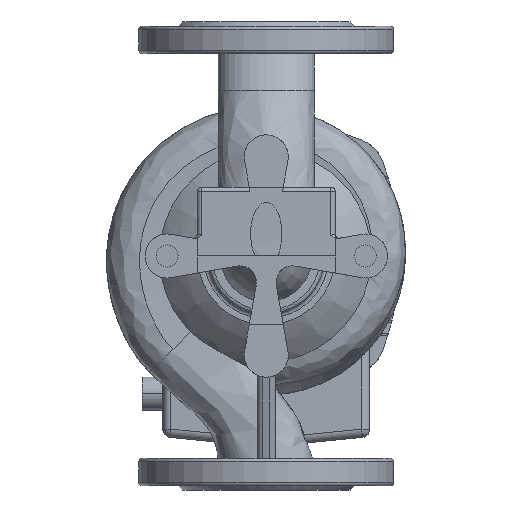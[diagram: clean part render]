
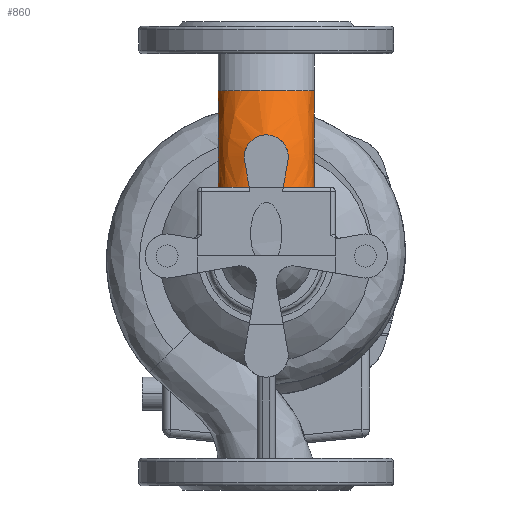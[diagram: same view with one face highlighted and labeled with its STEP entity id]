
A CAD part, front view. The second image highlights one B-rep face of the part: STEP entity #860.
In plain terms, the highlighted free-form (B-spline) face has degree [3, 3] with [7, 4] control points.
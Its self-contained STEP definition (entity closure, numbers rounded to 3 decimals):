
#149=(
BOUNDED_SURFACE()
B_SPLINE_SURFACE(3,3,((#22906,#22907,#22908,#22909),(#22910,#22911,#22912,
#22913),(#22914,#22915,#22916,#22917),(#22918,#22919,#22920,#22921),(#22922,
#22923,#22924,#22925),(#22926,#22927,#22928,#22929),(#22930,#22931,#22932,
#22933)),.UNSPECIFIED.,.T.,.F.,.F.)
B_SPLINE_SURFACE_WITH_KNOTS((1,3,3,3,1),(4,4),(-0.5,0.,0.5,1.,1.5),(0.,
1.),.UNSPECIFIED.)
GEOMETRIC_REPRESENTATION_ITEM()
RATIONAL_B_SPLINE_SURFACE(((1.,0.949,0.949,1.),
(0.333,0.316,0.316,0.333),
(0.333,0.316,0.316,0.333),
(1.,0.949,0.949,1.),(0.333,0.316,
0.316,0.333),(0.333,0.316,
0.316,0.333),(1.,0.949,0.949,
1.)))
REPRESENTATION_ITEM('')
SURFACE()
);
#180=(
BOUNDED_CURVE()
B_SPLINE_CURVE(3,(#22844,#22845,#22846,#22847),.UNSPECIFIED.,.F.,.F.)
B_SPLINE_CURVE_WITH_KNOTS((4,4),(0.,1.),.UNSPECIFIED.)
CURVE()
GEOMETRIC_REPRESENTATION_ITEM()
RATIONAL_B_SPLINE_CURVE((0.963,0.965,0.978,
1.))
REPRESENTATION_ITEM('')
);
#181=(
BOUNDED_CURVE()
B_SPLINE_CURVE(3,(#22851,#22852,#22853,#22854),.UNSPECIFIED.,.F.,.F.)
B_SPLINE_CURVE_WITH_KNOTS((4,4),(0.,1.),.UNSPECIFIED.)
CURVE()
GEOMETRIC_REPRESENTATION_ITEM()
RATIONAL_B_SPLINE_CURVE((0.963,0.965,0.978,
1.))
REPRESENTATION_ITEM('')
);
#860=ADVANCED_FACE('',(#2214),#149,.F.);
#2214=FACE_OUTER_BOUND('',#3035,.T.);
#3035=EDGE_LOOP('',(#6671,#6672,#6673,#6674,#6675,#6676,#6677,#6678,#6679,
#6680));
#4075=B_SPLINE_CURVE_WITH_KNOTS('',3,(#22858,#22859,#22860,#22861,#22862,
#22863,#22864,#22865),.UNSPECIFIED.,.F.,.F.,(4,2,2,4),(0.,0.5,0.75,1.),
 .UNSPECIFIED.);
#4076=B_SPLINE_CURVE_WITH_KNOTS('',3,(#22867,#22868,#22869,#22870),
 .UNSPECIFIED.,.F.,.F.,(4,4),(0.,1.),.UNSPECIFIED.);
#4077=B_SPLINE_CURVE_WITH_KNOTS('',3,(#22872,#22873,#22874,#22875,#22876,
#22877,#22878,#22879,#22880,#22881,#22882,#22883,#22884,#22885,#22886,#22887,
#22888,#22889),.UNSPECIFIED.,.F.,.F.,(4,2,2,2,2,2,2,2,4),(0.,0.125,0.25,
0.375,0.5,0.625,0.75,0.875,1.),.UNSPECIFIED.);
#4078=B_SPLINE_CURVE_WITH_KNOTS('',3,(#22891,#22892,#22893,#22894),
 .UNSPECIFIED.,.F.,.F.,(4,4),(0.,1.),.UNSPECIFIED.);
#4079=B_SPLINE_CURVE_WITH_KNOTS('',3,(#22896,#22897,#22898,#22899,#22900,
#22901,#22902,#22903,#22904,#22905),.UNSPECIFIED.,.F.,.F.,(4,2,2,2,4),(0.,
0.25,0.5,0.75,1.),.UNSPECIFIED.);
#6671=ORIENTED_EDGE('',*,*,#12825,.T.);
#6672=ORIENTED_EDGE('',*,*,#12826,.T.);
#6673=ORIENTED_EDGE('',*,*,#12827,.T.);
#6674=ORIENTED_EDGE('',*,*,#12828,.F.);
#6675=ORIENTED_EDGE('',*,*,#12829,.F.);
#6676=ORIENTED_EDGE('',*,*,#12830,.T.);
#6677=ORIENTED_EDGE('',*,*,#12831,.T.);
#6678=ORIENTED_EDGE('',*,*,#12832,.T.);
#6679=ORIENTED_EDGE('',*,*,#12833,.T.);
#6680=ORIENTED_EDGE('',*,*,#12834,.T.);
#11288=VERTEX_POINT('',#22842);
#11289=VERTEX_POINT('',#22843);
#11290=VERTEX_POINT('',#22848);
#11291=VERTEX_POINT('',#22850);
#11292=VERTEX_POINT('',#22855);
#11293=VERTEX_POINT('',#22857);
#11294=VERTEX_POINT('',#22866);
#11295=VERTEX_POINT('',#22871);
#11296=VERTEX_POINT('',#22890);
#11297=VERTEX_POINT('',#22895);
#12825=EDGE_CURVE('',#11288,#11289,#15056,.T.);
#12826=EDGE_CURVE('',#11289,#11290,#180,.T.);
#12827=EDGE_CURVE('',#11290,#11291,#15057,.T.);
#12828=EDGE_CURVE('',#11292,#11291,#181,.T.);
#12829=EDGE_CURVE('',#11293,#11292,#15058,.T.);
#12830=EDGE_CURVE('',#11293,#11294,#4075,.T.);
#12831=EDGE_CURVE('',#11294,#11295,#4076,.T.);
#12832=EDGE_CURVE('',#11295,#11296,#4077,.T.);
#12833=EDGE_CURVE('',#11296,#11297,#4078,.T.);
#12834=EDGE_CURVE('',#11297,#11288,#4079,.T.);
#15056=CIRCLE('',#15984,147.267);
#15057=CIRCLE('',#15985,35.);
#15058=CIRCLE('',#15986,147.267);
#15984=AXIS2_PLACEMENT_3D('',#22841,#17912,#17913);
#15985=AXIS2_PLACEMENT_3D('',#22849,#17914,#17915);
#15986=AXIS2_PLACEMENT_3D('',#22856,#17916,#17917);
#17912=DIRECTION('',(-1.,0.,0.));
#17913=DIRECTION('',(0.,0.,1.));
#17914=DIRECTION('',(0.,0.,-1.));
#17915=DIRECTION('',(-1.,0.,0.));
#17916=DIRECTION('',(-1.,0.,0.));
#17917=DIRECTION('',(0.,0.,1.));
#22841=CARTESIAN_POINT('',(43.921,15.948,19.151));
#22842=CARTESIAN_POINT('',(43.921,-127.341,53.151));
#22843=CARTESIAN_POINT('',(43.921,-117.164,82.151));
#22844=CARTESIAN_POINT('',(43.921,-117.164,82.151));
#22845=CARTESIAN_POINT('',(43.921,-109.871,97.559));
#22846=CARTESIAN_POINT('',(43.921,-100.086,111.385));
#22847=CARTESIAN_POINT('',(43.921,-88.186,123.285));
#22848=CARTESIAN_POINT('',(43.921,-88.186,123.285));
#22849=CARTESIAN_POINT('',(8.921,-88.186,123.285));
#22850=CARTESIAN_POINT('',(-26.079,-88.186,123.285));
#22851=CARTESIAN_POINT('',(-26.079,-117.164,82.151));
#22852=CARTESIAN_POINT('',(-26.079,-109.871,97.559));
#22853=CARTESIAN_POINT('',(-26.079,-100.086,111.385));
#22854=CARTESIAN_POINT('',(-26.079,-88.186,123.285));
#22855=CARTESIAN_POINT('',(-26.079,-117.164,82.151));
#22856=CARTESIAN_POINT('',(-26.079,15.948,19.151));
#22857=CARTESIAN_POINT('',(-26.079,-127.341,53.151));
#22858=CARTESIAN_POINT('',(-26.079,-127.341,53.151));
#22859=CARTESIAN_POINT('',(-26.079,-133.452,53.151));
#22860=CARTESIAN_POINT('',(-23.043,-139.192,53.151));
#22861=CARTESIAN_POINT('',(-16.757,-145.641,53.151));
#22862=CARTESIAN_POINT('',(-14.327,-147.5,53.151));
#22863=CARTESIAN_POINT('',(-9.128,-150.549,53.151));
#22864=CARTESIAN_POINT('',(-6.349,-151.753,53.151));
#22865=CARTESIAN_POINT('',(-3.446,-152.643,53.151));
#22866=CARTESIAN_POINT('',(-3.446,-152.643,53.151));
#22867=CARTESIAN_POINT('',(-3.446,-152.643,53.151));
#22868=CARTESIAN_POINT('',(-4.6,-150.97,59.693));
#22869=CARTESIAN_POINT('',(-5.73,-148.872,66.1));
#22870=CARTESIAN_POINT('',(-6.836,-146.35,72.373));
#22871=CARTESIAN_POINT('',(-6.836,-146.35,72.373));
#22872=CARTESIAN_POINT('',(-6.836,-146.35,72.373));
#22873=CARTESIAN_POINT('',(-7.221,-145.471,74.56));
#22874=CARTESIAN_POINT('',(-7.153,-144.701,76.842));
#22875=CARTESIAN_POINT('',(-6.035,-143.509,81.277));
#22876=CARTESIAN_POINT('',(-4.972,-143.088,83.426));
#22877=CARTESIAN_POINT('',(-2.018,-142.542,87.06));
#22878=CARTESIAN_POINT('',(-0.115,-142.403,88.567));
#22879=CARTESIAN_POINT('',(4.171,-142.246,90.613));
#22880=CARTESIAN_POINT('',(6.54,-142.223,91.15));
#22881=CARTESIAN_POINT('',(11.282,-142.223,91.153));
#22882=CARTESIAN_POINT('',(13.654,-142.246,90.616));
#22883=CARTESIAN_POINT('',(17.912,-142.401,88.594));
#22884=CARTESIAN_POINT('',(19.823,-142.537,87.097));
#22885=CARTESIAN_POINT('',(22.804,-143.084,83.447));
#22886=CARTESIAN_POINT('',(23.87,-143.503,81.301));
#22887=CARTESIAN_POINT('',(24.996,-144.699,76.846));
#22888=CARTESIAN_POINT('',(25.064,-145.47,74.561));
#22889=CARTESIAN_POINT('',(24.678,-146.35,72.373));
#22890=CARTESIAN_POINT('',(24.678,-146.35,72.373));
#22891=CARTESIAN_POINT('',(24.678,-146.35,72.373));
#22892=CARTESIAN_POINT('',(23.572,-148.872,66.1));
#22893=CARTESIAN_POINT('',(22.442,-150.97,59.693));
#22894=CARTESIAN_POINT('',(21.289,-152.643,53.151));
#22895=CARTESIAN_POINT('',(21.289,-152.643,53.151));
#22896=CARTESIAN_POINT('',(21.289,-152.643,53.151));
#22897=CARTESIAN_POINT('',(24.194,-151.752,53.151));
#22898=CARTESIAN_POINT('',(26.946,-150.56,53.151));
#22899=CARTESIAN_POINT('',(32.127,-147.529,53.151));
#22900=CARTESIAN_POINT('',(34.573,-145.664,53.151));
#22901=CARTESIAN_POINT('',(38.775,-141.362,53.151));
#22902=CARTESIAN_POINT('',(40.59,-138.861,53.151));
#22903=CARTESIAN_POINT('',(43.153,-133.407,53.151));
#22904=CARTESIAN_POINT('',(43.921,-130.4,53.151));
#22905=CARTESIAN_POINT('',(43.921,-127.341,53.151));
#22906=CARTESIAN_POINT('',(-26.079,-131.319,19.151));
#22907=CARTESIAN_POINT('',(-26.079,-131.319,58.731));
#22908=CARTESIAN_POINT('',(-26.079,-116.173,95.298));
#22909=CARTESIAN_POINT('',(-26.079,-88.186,123.285));
#22910=CARTESIAN_POINT('',(-26.079,-81.822,68.649));
#22911=CARTESIAN_POINT('',(-26.079,-68.519,94.925));
#22912=CARTESIAN_POINT('',(-26.079,-46.173,114.111));
#22913=CARTESIAN_POINT('',(-26.079,-18.186,123.285));
#22914=CARTESIAN_POINT('',(43.921,-81.822,68.649));
#22915=CARTESIAN_POINT('',(43.921,-68.519,94.925));
#22916=CARTESIAN_POINT('',(43.921,-46.173,114.111));
#22917=CARTESIAN_POINT('',(43.921,-18.186,123.285));
#22918=CARTESIAN_POINT('',(43.921,-131.319,19.151));
#22919=CARTESIAN_POINT('',(43.921,-131.319,58.731));
#22920=CARTESIAN_POINT('',(43.921,-116.173,95.298));
#22921=CARTESIAN_POINT('',(43.921,-88.186,123.285));
#22922=CARTESIAN_POINT('',(43.921,-180.817,-30.346));
#22923=CARTESIAN_POINT('',(43.921,-194.12,22.536));
#22924=CARTESIAN_POINT('',(43.921,-186.173,76.484));
#22925=CARTESIAN_POINT('',(43.921,-158.186,123.285));
#22926=CARTESIAN_POINT('',(-26.079,-180.817,-30.346));
#22927=CARTESIAN_POINT('',(-26.079,-194.12,22.536));
#22928=CARTESIAN_POINT('',(-26.079,-186.173,76.484));
#22929=CARTESIAN_POINT('',(-26.079,-158.186,123.285));
#22930=CARTESIAN_POINT('',(-26.079,-131.319,19.151));
#22931=CARTESIAN_POINT('',(-26.079,-131.319,58.731));
#22932=CARTESIAN_POINT('',(-26.079,-116.173,95.298));
#22933=CARTESIAN_POINT('',(-26.079,-88.186,123.285));
